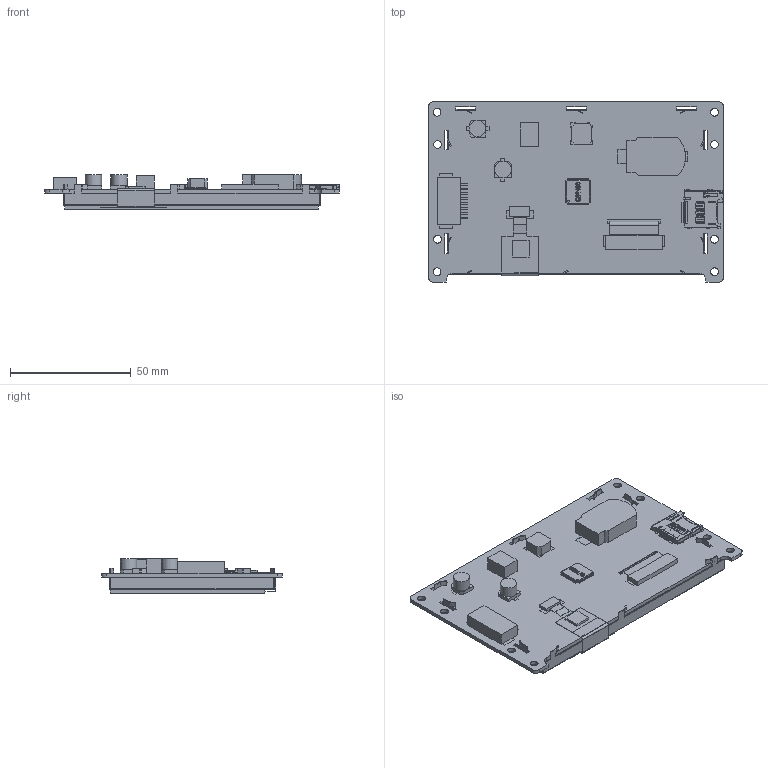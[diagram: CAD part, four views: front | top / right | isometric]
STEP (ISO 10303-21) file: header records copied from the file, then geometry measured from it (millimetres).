
FILE_DESCRIPTION(/* description */ (''),/* implementation_level */ '2;1');
FILE_NAME(/* name */ '',/* time_stamp */ '2021-08-24T10:17:43+08:00',/* author */ (''),/* organization */ (''),/* preprocessor_version */ 'ST-DEVELOPER v11',/* originating_system */ 'SIEMENS PLM Software NX 7.5',/* authorisation */ '');
FILE_SCHEMA (('AP203_CONFIGURATION_CONTROLLED_3D_DESIGN_OF_MECHANICAL_PARTS_AND_ASSEMBLIES_MIM_LF'));
Products named in the file (1): SDWb043T84C
Bounding box: 121.9 x 74.7 x 14.23 mm (x, y, z)
Volume: 29675.5 mm3; surface area: 47016.9 mm2
Topology: 21 solids, 21 shells, 2382 faces, 6918 edges, 4631 vertices
Faces by surface type: plane 1936, cylinder 438, bspline 7, cone 1
Full cylindrical faces by diameter (mm): 3.2 x8, 6.776 x2
Entity records: 80638 total; most frequent: CARTESIAN_POINT 14361, ORIENTED_EDGE 13662, DIRECTION 12475, EDGE_CURVE 6831, LINE 5949, VECTOR 5949, VERTEX_POINT 4491, AXIS2_PLACEMENT_3D 3263
